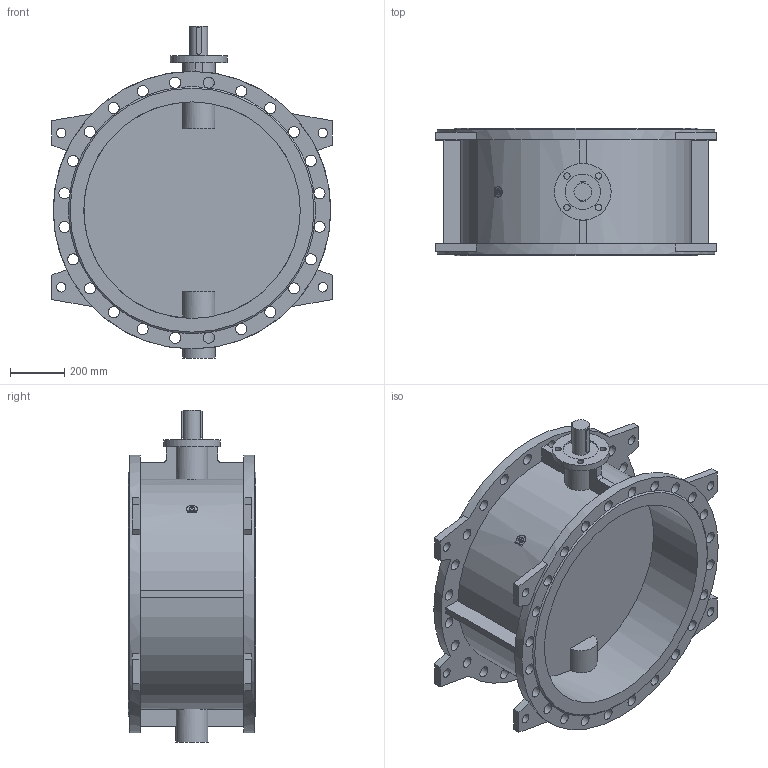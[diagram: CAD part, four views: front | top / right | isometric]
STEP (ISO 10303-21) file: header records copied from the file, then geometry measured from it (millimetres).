
FILE_DESCRIPTION(('STEP AP203'), '1');
FILE_NAME('Çàòâîð 023F.Z DN800 PN16_èñï', '', ('UNSPECIFIED'), ('UNSPECIFIED'), 'ASCON STEP Converter 1.6', 'ASCON Math Kernel', '');
FILE_SCHEMA(('CONFIG_CONTROL_DESIGN'));
Length unit declared in the file: millimetre
Bounding box: 1036 x 470 x 1226 mm (x, y, z)
Volume: 90308132.9 mm3; surface area: 5134644.2 mm2
Topology: 1 solids, 1 shells, 174 faces, 621 edges, 414 vertices
Faces by surface type: cylinder 87, plane 85, cone 2
Full cylindrical faces by diameter (mm): 23 x4, 35 x8, 41 x48, 65 x1, 120 x1, 130 x1, 210 x1, 800 x2, 1025 x2
Entity records: 11566 total; most frequent: CARTESIAN_POINT 4734, DIRECTION 1118, ORIENTED_EDGE 1100, EDGE_CURVE 550, AXIS2_PLACEMENT_3D 460, VERTEX_POINT 414, EDGE_LOOP 330, CIRCLE 285
